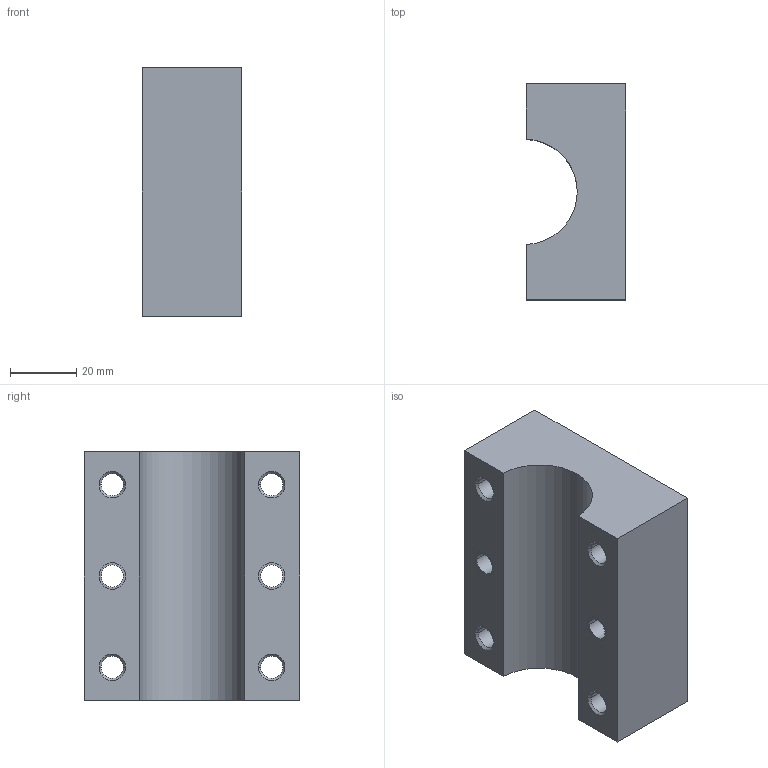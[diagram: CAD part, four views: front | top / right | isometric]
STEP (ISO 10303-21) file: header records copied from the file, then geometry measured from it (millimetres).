
FILE_DESCRIPTION(/* description */ ('(C) Elphel, Inc. 2011. Licensed under CERN OHL v.1.1 or later, see http://ohwr.org/cernohl'),/* implementation_level */ '2;1');
FILE_NAME(/* name */ '0353-22-10',/* time_stamp */ '2011-10-13T17:06:17-06:00',/* author */ (''),/* organization */ ('Elphel, Inc'),/* preprocessor_version */ 'ST-DEVELOPER v12',/* originating_system */ 'VariCAD 2010-3.03; kernel version (20100102)',/* authorisation */ '');
FILE_SCHEMA (('AUTOMOTIVE_DESIGN'));
Length unit declared in the file: millimetre
Products named in the file (1): Part
Bounding box: 30 x 65 x 75 mm (x, y, z)
Volume: 111473.8 mm3; surface area: 31019.5 mm2
Topology: 7 solids, 7 shells, 62 faces, 138 edges, 84 vertices
Faces by surface type: cylinder 37, plane 13, cone 12
Entity records: 2301 total; most frequent: DIRECTION 352, CARTESIAN_POINT 292, ORIENTED_EDGE 276, AXIS2_PLACEMENT_3D 144, EDGE_CURVE 138, VERTEX_POINT 84, EDGE_LOOP 80, CIRCLE 74
